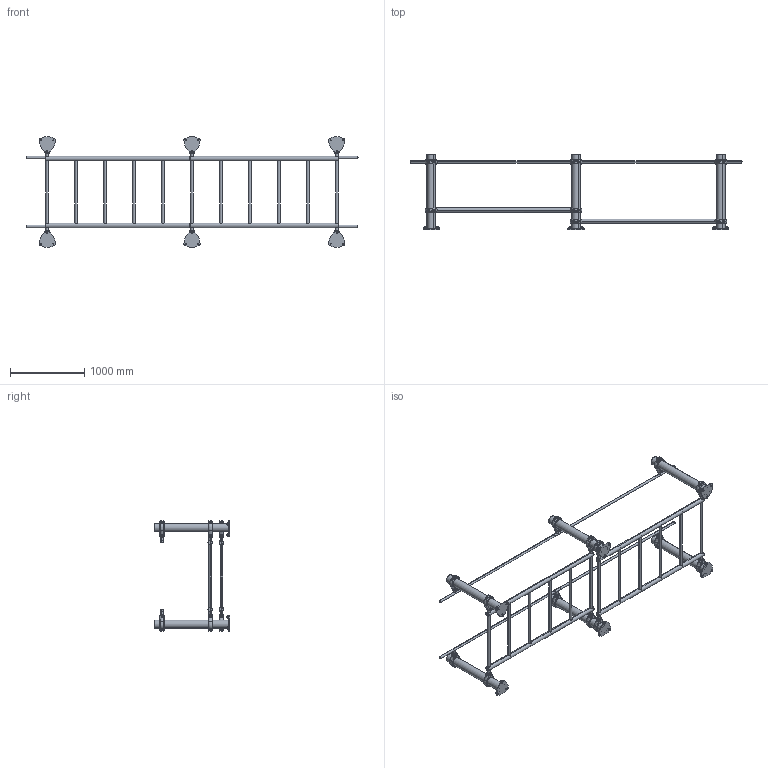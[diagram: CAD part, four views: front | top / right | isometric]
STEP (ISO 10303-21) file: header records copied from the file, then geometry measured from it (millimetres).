
FILE_DESCRIPTION (( 'STEP AP203' ), '1' );
FILE_NAME ('PMS0801 - ECHELLE DE COORDINATION (avec barre d''appuie) V1.0.STEP', '2024-07-16T14:10:02', ( '' ), ( '' ), 'SwSTEP 2.0', 'SolidWorks 2024', '' );
FILE_SCHEMA (( 'CONFIG_CONTROL_DESIGN' ));
Length unit declared in the file: millimetre
Products named in the file (1): PMS0801 - ECHELLE DE COORDINATION (avec barre d''appuie) V1.0
Bounding box: 4472 x 1015 x 1490.25 mm (x, y, z)
Surface area: 8006300.9 mm2 (no closed solid volume)
Topology: 0 solids, 338 shells, 2082 faces, 8265 edges, 6219 vertices
Faces by surface type: bspline 756, cylinder 532, plane 514, torus 184, cone 60, sphere 36
Entity records: 179452 total; most frequent: CARTESIAN_POINT 122574, ORIENTED_EDGE 11535, DIRECTION 9160, EDGE_CURVE 8241, VERTEX_POINT 6219, AXIS2_PLACEMENT_3D 3458, B_SPLINE_CURVE_WITH_KNOTS 3216, VECTOR 2244
